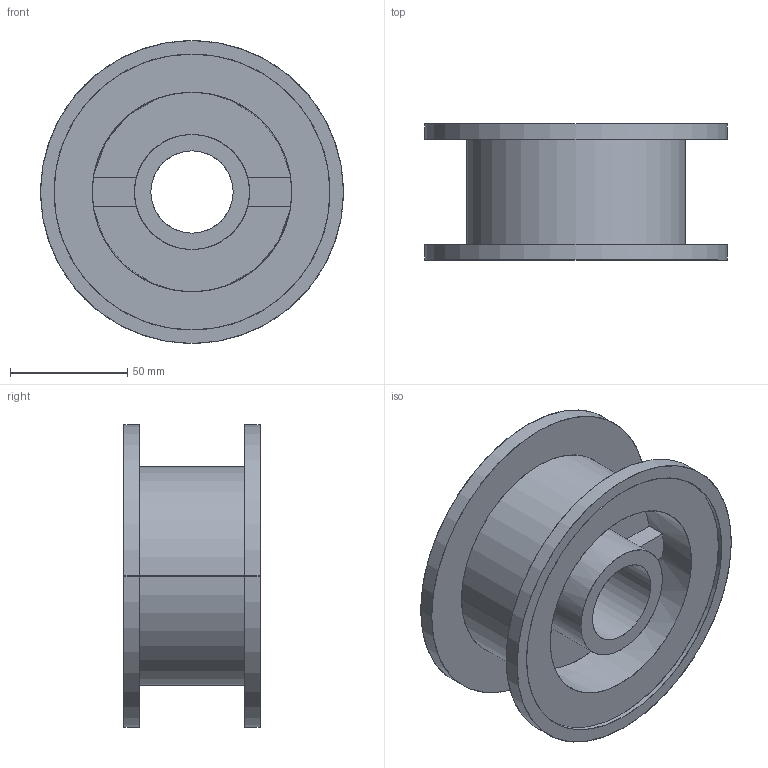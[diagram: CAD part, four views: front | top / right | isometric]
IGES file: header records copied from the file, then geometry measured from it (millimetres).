
Start section: SolidWorks IGES file using analytic representation for surfaces
Global section: file name: C:\Documents and Settings\URETIM3\Desktop\yeni katalog tolgay\304 avara kasnak\304 021 302.IGS; native system: SolidWorks 2006 by SolidWorks Corporation; preprocessor: SolidWorks 2006 by SolidWorks Corporation; author: URETIM3; date: 061031.122701; units: millimetre
Bounding box: 129 x 58 x 129 mm (x, y, z)
Surface area: 84333.8 mm2 (no closed solid volume)
Topology: 0 solids, 0 shells, 44 faces, 1400 edges, 1400 vertices
Faces by surface type: bspline 24, revolution 20
